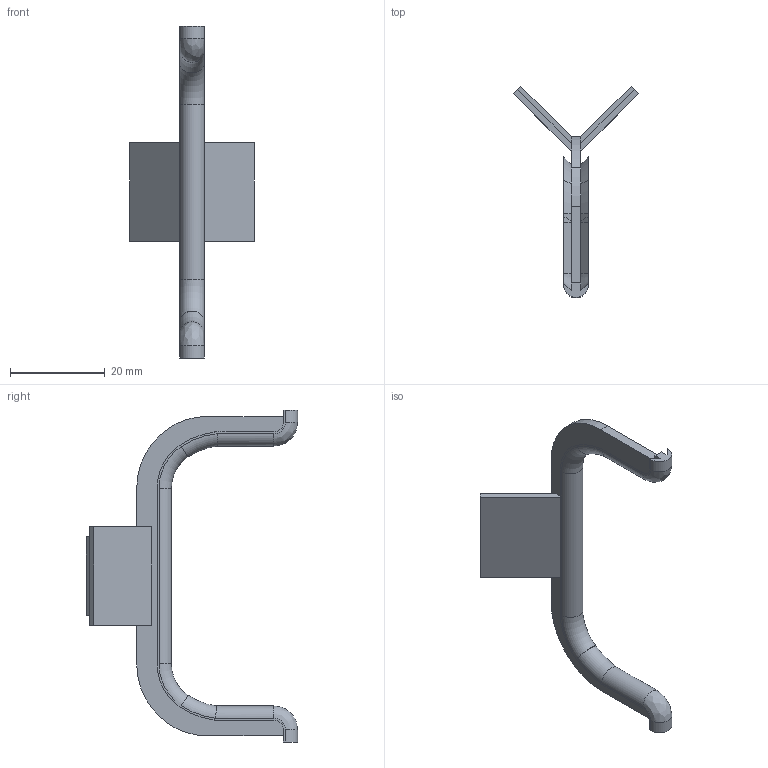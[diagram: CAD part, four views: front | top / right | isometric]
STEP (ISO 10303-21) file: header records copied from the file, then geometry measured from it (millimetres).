
FILE_DESCRIPTION( ( 'STEP AP214' ), '1' );
FILE_NAME( 'C:/Users/swati/Desktop/10-03-2016/15-03-2016/9210138/9210138.stp', ' ', ( ' ' ), ( ' ' ), 'PSStep 15.0.47', 'PARTsolutions', ' ' );
FILE_SCHEMA( ( 'AUTOMOTIVE_DESIGN { 1 0 10303 214 1 1 1 1 }' ) );
Length unit declared in the file: millimetre
Products named in the file (2): 95 ; _
Assembly tree (1 placements, depth 2):
  95 
    _
Bounding box: 26.32 x 44.51 x 69.95 mm (x, y, z)
Volume: 3324.8 mm3; surface area: 4428.7 mm2
Topology: 1 solids, 1 shells, 91 faces, 263 edges, 174 vertices
Faces by surface type: plane 60, cone 16, cylinder 9, torus 4, bspline 2
Entity records: 3921 total; most frequent: CARTESIAN_POINT 736, ORIENTED_EDGE 526, DIRECTION 493, EDGE_CURVE 263, LINE 183, VECTOR 183, VERTEX_POINT 174, AXIS2_PLACEMENT_3D 155
